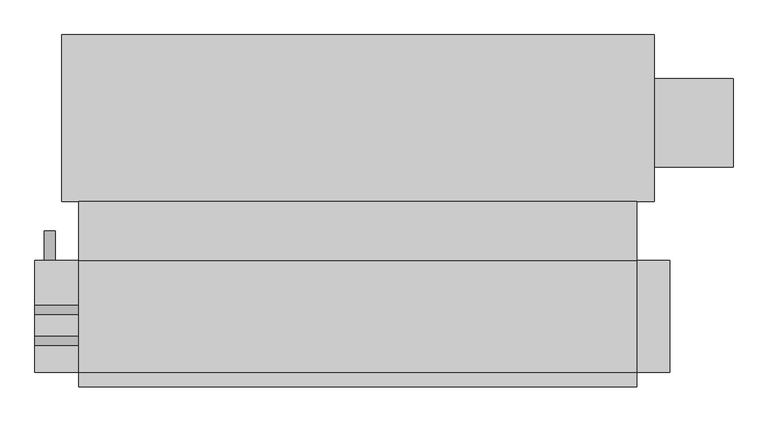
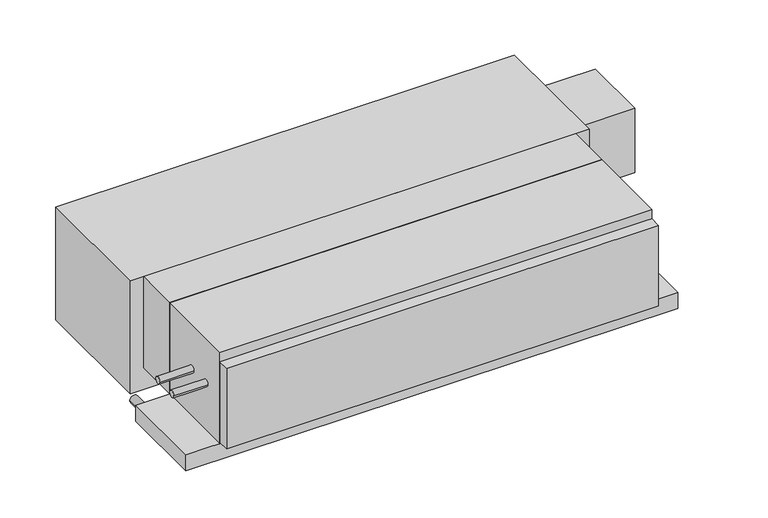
"""IFC4 building model written with IfcOpenShell, lengths in millimetres: proxy geometry, Concealed_Horizontal_Fan_Coil_Unit_With_Plenum_-_42CEA_-_CARRIER_-_2-Pipe_Cool-EHeat_LH_2022 : Size 08 - 277v/60Hz/1Ph - 4 Row 6.0kW."""

from ifc_helpers import new_model, si_unit, point, frame, frame_2d, origin, place, context, project, spatial, polyline, circle_curve, trimmed, segment, composite_curve, outline, extrude, source, transform, mapped, element, save


def mechanical_equipment_54f2e379(model_context):
    return source(origin(), model_context, "Body", "SweptSolid", [
        extrude(outline(composite_curve([segment(trimmed(circle_curve(frame_2d((-280.9875, -104.775)), 7.9375), [point((-288.925, -104.775))], [point((-273.05, -104.775))], False, "CARTESIAN"), True, "CONTINUOUS"), segment(trimmed(circle_curve(frame_2d((-280.9875, -104.775)), 7.9375), [point((-273.05, -104.775))], [point((-288.925, -104.775))], False, "CARTESIAN"), True, "CONTINUOUS")], self_intersect=False)), frame((-406.4, 0.0, 0.0), z_axis=(1.0, 0.0, 0.0), x_axis=(0.0, 1.0, 0.0)), (0.0, 0.0, 1.0), 76.2),
        extrude(outline(composite_curve([segment(trimmed(circle_curve(frame_2d((-227.0125, -104.775)), 7.9375), [point((-234.95, -104.775))], [point((-219.075, -104.775))], False, "CARTESIAN"), True, "CONTINUOUS"), segment(trimmed(circle_curve(frame_2d((-227.0125, -104.775)), 7.9375), [point((-219.075, -104.775))], [point((-234.95, -104.775))], False, "CARTESIAN"), True, "CONTINUOUS")], self_intersect=False)), frame((-406.4, 0.0, 0.0), z_axis=(1.0, 0.0, 0.0), x_axis=(0.0, 1.0, 0.0)), (0.0, 0.0, 1.0), 76.2),
        extrude(outline(composite_curve([segment(trimmed(circle_curve(frame_2d((-241.3, -381.0)), 9.525), [point((-241.3, -390.525))], [point((-241.3, -371.475))], False, "CARTESIAN"), True, "CONTINUOUS"), segment(trimmed(circle_curve(frame_2d((-241.3, -381.0)), 9.525), [point((-241.3, -371.475))], [point((-241.3, -390.525))], False, "CARTESIAN"), True, "CONTINUOUS")], self_intersect=False)), frame((0.0, -141.2875, 0.0), z_axis=(0.0, 1.0, 0.0), x_axis=(0.0, 0.0, 1.0)), (0.0, 0.0, 1.0), 50.8),
        extrude(outline(polyline([(-330.2, -39.6875), (635.0, -39.6875), (635.0, -141.2875), (-330.2, -141.2875), (-330.2, -39.6875)])), frame((0.0, 0.0, -215.9), z_axis=(0.0, 0.0, 1.0), x_axis=(1.0, 0.0, 0.0)), (0.0, 0.0, 1.0), 215.9),
        extrude(outline(polyline([(635.0, -360.3625), (-330.2, -360.3625), (-330.2, -334.9625), (635.0, -334.9625), (635.0, -360.3625)])), frame((0.0, 0.0, -212.725), z_axis=(0.0, 0.0, 1.0), x_axis=(1.0, 0.0, 0.0)), (0.0, 0.0, 1.0), 190.5),
        extrude(outline(polyline([(801.6875, 173.0375), (801.6875, 20.6375), (665.1625, 20.6375), (665.1625, 173.0375), (801.6875, 173.0375)])), frame((0.0, 0.0, -187.325), z_axis=(0.0, 0.0, 1.0), x_axis=(1.0, 0.0, 0.0)), (0.0, 0.0, 1.0), 152.4),
        extrude(outline(polyline([(-360.3625, 249.2375), (665.1625, 249.2375), (665.1625, -39.6875), (-360.3625, -39.6875), (-360.3625, 249.2375)])), frame((0.0, 0.0, -266.7), z_axis=(0.0, 0.0, 1.0), x_axis=(1.0, 0.0, 0.0)), (0.0, 0.0, 1.0), 266.7),
        extrude(outline(polyline([(635.0, -141.2875), (635.0, -334.9625), (-330.2, -334.9625), (-330.2, -141.2875), (635.0, -141.2875)])), frame((0.0, 0.0, -215.9), z_axis=(0.0, 0.0, 1.0), x_axis=(1.0, 0.0, 0.0)), (0.0, 0.0, 1.0), 215.9),
        extrude(outline(polyline([(692.15, -141.2875), (692.15, -334.9625), (-406.4, -334.9625), (-406.4, -141.2875), (692.15, -141.2875)])), frame((0.0, 0.0, -254.0), z_axis=(0.0, 0.0, 1.0), x_axis=(1.0, 0.0, 0.0)), (0.0, 0.0, 1.0), 38.1),
    ])


if __name__ == "__main__":
    model = new_model("IFC4")
    model_context = context("Model", 3, world=origin())
    ifc_project = project(units=[si_unit("LENGTHUNIT", "METRE", prefix="MILLI")], contexts=[model_context])
    site = spatial("IfcSite", under=ifc_project)
    building = spatial("IfcBuilding", under=site)
    placement = place(None, origin())
    mechanical_equipment_shape = mechanical_equipment_54f2e379(model_context)
    element("IfcBuildingElementProxy", 1, Name="Concealed_Horizontal_Fan_Coil_Unit_With_Plenum_-_42CEA_-_CARRIER_-_2-Pipe_Cool-EHeat_LH_2022 : Size 08 - 277v/60Hz/1Ph - 4 Row 6.0kW", ObjectType="Concealed_Horizontal_Fan_Coil_Unit_With_Plenum_-_42CEA_-_CARRIER_-_2-Pipe_Cool-EHeat_LH_2022 : Size 08 - 277v/60Hz/1Ph - 4 Row 6.0kW", at=placement, inside=building, context=model_context, shape_type="MappedRepresentation", body=[
        mapped(mechanical_equipment_shape, transform((0.0, 0.0, 0.0), x_axis=(1.0, 0.0, 0.0), y_axis=(0.0, 1.0, 0.0), z_axis=(0.0, 0.0, 1.0))),
    ])
    save(model, "model.ifc")
